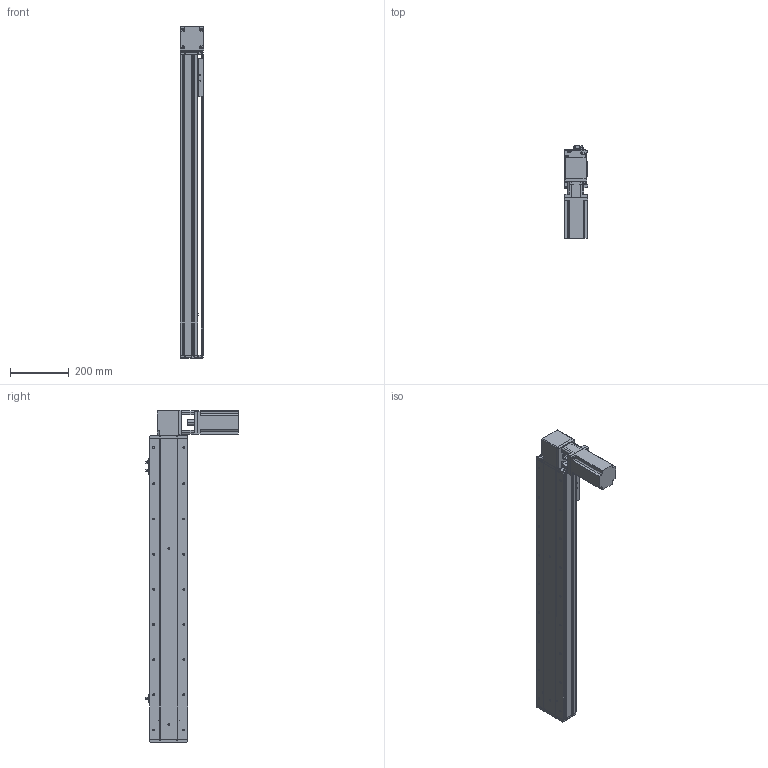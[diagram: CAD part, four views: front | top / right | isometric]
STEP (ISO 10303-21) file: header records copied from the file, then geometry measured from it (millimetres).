
FILE_DESCRIPTION (( 'STEP AP214' ), '1' );
FILE_NAME ('KSD130B-S800-MLT-CM.STEP', '2019-09-23T02:18:09', ( '微软用户' ), ( '微软中国' ), 'SwSTEP 2.0', 'SolidWorks 2014', '' );
FILE_SCHEMA (( 'AUTOMOTIVE_DESIGN' ));
Length unit declared in the file: millimetre
Products named in the file (12): 130宽同步带安装座半封闭; 130宽端盖同步带半封闭; 130宽底板半封闭同步带-800行程; KSD130B-S800-MLT-CM; 台达ECMA－C20807AS伺服电机; 130宽马达安装板1-带电机座750W（1）; 覜茼え100遵圉猾敕; U倰嫖萇EEㄜSX672; 130宽安装板同步带带电机座750W; 130宽盖板半封闭同步带-800行程; 130宽马达安装板同步带左-改; 130宽马达安装板同步带半封闭
Assembly tree (13 placements, depth 2):
  KSD130B-S800-MLT-CM
    130宽底板半封闭同步带-800行程
    130宽端盖同步带半封闭
    130宽同步带安装座半封闭
    130宽马达安装板同步带半封闭
    130宽马达安装板同步带左-改
    130宽盖板半封闭同步带-800行程
    130宽安装板同步带带电机座750W
    U倰嫖萇EEㄜSX672  x3
    覜茼え100遵圉猾敕
    130宽马达安装板1-带电机座750W（1）
    台达ECMA－C20807AS伺服电机
Bounding box: 81 x 316 x 1133 mm (x, y, z)
Volume: 4423920.4 mm3; surface area: 1147341.5 mm2
Topology: 14 solids, 14 shells, 1477 faces, 4192 edges, 2681 vertices
Faces by surface type: cylinder 707, plane 601, cone 169
Entity records: 48107 total; most frequent: CARTESIAN_POINT 8827, DIRECTION 7342, ORIENTED_EDGE 7044, EDGE_CURVE 3522, AXIS2_PLACEMENT_3D 2688, VERTEX_POINT 2305, LINE 1966, VECTOR 1966
